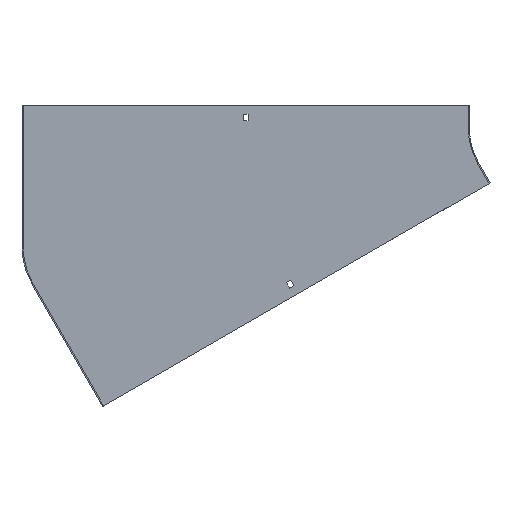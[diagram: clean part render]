
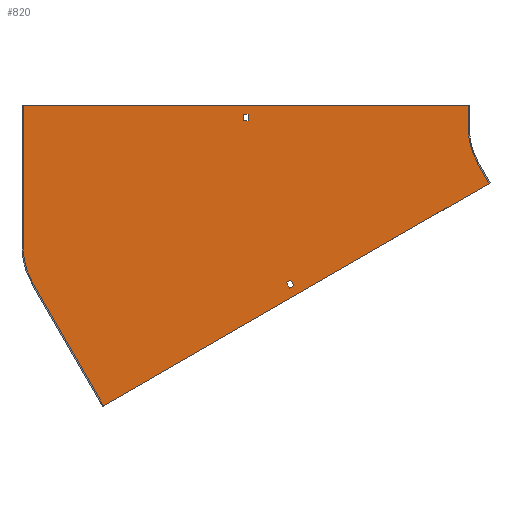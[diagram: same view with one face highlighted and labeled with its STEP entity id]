
A CAD part, front view. The second image highlights one B-rep face of the part: STEP entity #820.
In plain terms, the highlighted planar face has unit normal (0, -1, 0).
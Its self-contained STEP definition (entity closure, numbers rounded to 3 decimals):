
#2 = EDGE_CURVE ( 'NONE', #178, #503, #794, .T. ) ;
#10 = CARTESIAN_POINT ( 'NONE',  ( -690.603, -1.5, -211.841 ) ) ;
#19 = LINE ( 'NONE', #221, #253 ) ;
#20 = VECTOR ( 'NONE', #471, 1000. ) ;
#22 = EDGE_CURVE ( 'NONE', #346, #246, #584, .T. ) ;
#25 = DIRECTION ( 'NONE',  ( 0., 1., 0. ) ) ;
#38 = ORIENTED_EDGE ( 'NONE', *, *, #591, .F. ) ;
#40 = ORIENTED_EDGE ( 'NONE', *, *, #195, .F. ) ;
#49 = EDGE_LOOP ( 'NONE', ( #784, #271, #317, #510 ) ) ;
#59 = VECTOR ( 'NONE', #212, 1000. ) ;
#60 = VECTOR ( 'NONE', #467, 1000. ) ;
#64 = EDGE_CURVE ( 'NONE', #683, #525, #654, .T. ) ;
#67 = CARTESIAN_POINT ( 'NONE',  ( -704., -1.5, -161.841 ) ) ;
#71 = CARTESIAN_POINT ( 'NONE',  ( -100., -1.5, 30. ) ) ;
#75 = VERTEX_POINT ( 'NONE', #71 ) ;
#77 = ORIENTED_EDGE ( 'NONE', *, *, #852, .F. ) ;
#82 = CARTESIAN_POINT ( 'NONE',  ( -604., -1.5, -161.841 ) ) ;
#84 = VERTEX_POINT ( 'NONE', #95 ) ;
#95 = CARTESIAN_POINT ( 'NONE',  ( -71.603, -1.5, -75.981 ) ) ;
#118 = CARTESIAN_POINT ( 'NONE',  ( 0., -1.5, 0. ) ) ;
#131 = LINE ( 'NONE', #460, #486 ) ;
#138 = EDGE_LOOP ( 'NONE', ( #347, #377, #450, #443 ) ) ;
#150 = CARTESIAN_POINT ( 'NONE',  ( -70.304, -1.5, -75.231 ) ) ;
#165 = EDGE_CURVE ( 'NONE', #637, #651, #299, .T. ) ;
#178 = VERTEX_POINT ( 'NONE', #701 ) ;
#180 = DIRECTION ( 'NONE',  ( -0.5, 0., 0.866 ) ) ;
#189 = CARTESIAN_POINT ( 'NONE',  ( -405.25, -1.5, 0. ) ) ;
#192 = VECTOR ( 'NONE', #768, 1000. ) ;
#195 = EDGE_CURVE ( 'NONE', #75, #645, #313, .T. ) ;
#210 = VECTOR ( 'NONE', #846, 1000. ) ;
#212 = DIRECTION ( 'NONE',  ( -1., 0., 0. ) ) ;
#219 = ORIENTED_EDGE ( 'NONE', *, *, #506, .F. ) ;
#220 = VERTEX_POINT ( 'NONE', #321 ) ;
#221 = CARTESIAN_POINT ( 'NONE',  ( 9., -1.5, -15.588 ) ) ;
#223 = EDGE_CURVE ( 'NONE', #815, #346, #513, .T. ) ;
#227 = EDGE_CURVE ( 'NONE', #220, #329, #585, .T. ) ;
#235 = ORIENTED_EDGE ( 'NONE', *, *, #733, .F. ) ;
#238 = CARTESIAN_POINT ( 'NONE',  ( -398.75, -1.5, 9. ) ) ;
#246 = VERTEX_POINT ( 'NONE', #324 ) ;
#253 = VECTOR ( 'NONE', #306, 1000. ) ;
#271 = ORIENTED_EDGE ( 'NONE', *, *, #165, .T. ) ;
#277 = CARTESIAN_POINT ( 'NONE',  ( -704., -1.5, 30. ) ) ;
#278 = VERTEX_POINT ( 'NONE', #389 ) ;
#281 = CARTESIAN_POINT ( 'NONE',  ( 0., -1.5, 9. ) ) ;
#292 = VERTEX_POINT ( 'NONE', #730 ) ;
#295 = DIRECTION ( 'NONE',  ( 0., 0., -1. ) ) ;
#299 = LINE ( 'NONE', #367, #628 ) ;
#306 = DIRECTION ( 'NONE',  ( 0.866, 0., 0.5 ) ) ;
#313 = LINE ( 'NONE', #574, #210 ) ;
#317 = ORIENTED_EDGE ( 'NONE', *, *, #612, .T. ) ;
#320 = CARTESIAN_POINT ( 'NONE',  ( 4.5, -1.5, -7.794 ) ) ;
#321 = CARTESIAN_POINT ( 'NONE',  ( -704., -1.5, -161.841 ) ) ;
#324 = CARTESIAN_POINT ( 'NONE',  ( -346.457, -1.5, -210.419 ) ) ;
#329 = VERTEX_POINT ( 'NONE', #277 ) ;
#346 = VERTEX_POINT ( 'NONE', #409 ) ;
#347 = ORIENTED_EDGE ( 'NONE', *, *, #223, .F. ) ;
#348 = VECTOR ( 'NONE', #692, 1000. ) ;
#356 = CARTESIAN_POINT ( 'NONE',  ( 0., -1.5, 0. ) ) ;
#359 = CARTESIAN_POINT ( 'NONE',  ( -705.5, -1.5, 30. ) ) ;
#367 = CARTESIAN_POINT ( 'NONE',  ( -398.75, -1.5, 0. ) ) ;
#377 = ORIENTED_EDGE ( 'NONE', *, *, #416, .F. ) ;
#387 = ORIENTED_EDGE ( 'NONE', *, *, #567, .F. ) ;
#389 = CARTESIAN_POINT ( 'NONE',  ( -86.603, -1.5, -50. ) ) ;
#393 = DIRECTION ( 'NONE',  ( -0.5, 0., 0.866 ) ) ;
#409 = CARTESIAN_POINT ( 'NONE',  ( -340.828, -1.5, -207.169 ) ) ;
#416 = EDGE_CURVE ( 'NONE', #292, #815, #19, .T. ) ;
#425 = CARTESIAN_POINT ( 'NONE',  ( -398.75, -1.5, 18. ) ) ;
#437 = AXIS2_PLACEMENT_3D ( 'NONE', #82, #25, #764 ) ;
#443 = ORIENTED_EDGE ( 'NONE', *, *, #22, .F. ) ;
#450 = ORIENTED_EDGE ( 'NONE', *, *, #782, .F. ) ;
#460 = CARTESIAN_POINT ( 'NONE',  ( -350.957, -1.5, -202.625 ) ) ;
#465 = DIRECTION ( 'NONE',  ( 0., 0., -1. ) ) ;
#467 = DIRECTION ( 'NONE',  ( -0.866, 0., -0.5 ) ) ;
#470 = CARTESIAN_POINT ( 'NONE',  ( -345.328, -1.5, -199.375 ) ) ;
#471 = DIRECTION ( 'NONE',  ( 0.5, 0., -0.866 ) ) ;
#478 = VECTOR ( 'NONE', #711, 1000. ) ;
#486 = VECTOR ( 'NONE', #586, 1000. ) ;
#503 = VERTEX_POINT ( 'NONE', #825 ) ;
#506 = EDGE_CURVE ( 'NONE', #84, #683, #759, .T. ) ;
#510 = ORIENTED_EDGE ( 'NONE', *, *, #2, .T. ) ;
#513 = LINE ( 'NONE', #470, #736 ) ;
#516 = LINE ( 'NONE', #526, #20 ) ;
#517 = CARTESIAN_POINT ( 'NONE',  ( -594.682, -1.5, -377.981 ) ) ;
#525 = VERTEX_POINT ( 'NONE', #10 ) ;
#526 = CARTESIAN_POINT ( 'NONE',  ( -86.603, -1.5, -50. ) ) ;
#531 = VECTOR ( 'NONE', #804, 1000. ) ;
#539 = CIRCLE ( 'NONE', #437, 100. ) ;
#567 = EDGE_CURVE ( 'NONE', #645, #278, #687, .T. ) ;
#574 = CARTESIAN_POINT ( 'NONE',  ( -100., -1.5, 30. ) ) ;
#576 = LINE ( 'NONE', #359, #192 ) ;
#584 = LINE ( 'NONE', #320, #60 ) ;
#585 = LINE ( 'NONE', #67, #689 ) ;
#586 = DIRECTION ( 'NONE',  ( 0.5, 0., -0.866 ) ) ;
#591 = EDGE_CURVE ( 'NONE', #525, #220, #539, .T. ) ;
#593 = FACE_BOUND ( 'NONE', #138, .T. ) ;
#608 = LINE ( 'NONE', #281, #59 ) ;
#612 = EDGE_CURVE ( 'NONE', #651, #178, #608, .T. ) ;
#618 = AXIS2_PLACEMENT_3D ( 'NONE', #118, #658, #465 ) ;
#626 = CARTESIAN_POINT ( 'NONE',  ( -100., -1.5, 0. ) ) ;
#628 = VECTOR ( 'NONE', #649, 1000. ) ;
#637 = VERTEX_POINT ( 'NONE', #425 ) ;
#645 = VERTEX_POINT ( 'NONE', #626 ) ;
#647 = VECTOR ( 'NONE', #393, 1000. ) ;
#649 = DIRECTION ( 'NONE',  ( 0., 0., -1. ) ) ;
#651 = VERTEX_POINT ( 'NONE', #238 ) ;
#652 = ORIENTED_EDGE ( 'NONE', *, *, #64, .F. ) ;
#654 = LINE ( 'NONE', #517, #647 ) ;
#658 = DIRECTION ( 'NONE',  ( 0., -1., 0. ) ) ;
#662 = FACE_OUTER_BOUND ( 'NONE', #763, .T. ) ;
#683 = VERTEX_POINT ( 'NONE', #836 ) ;
#687 = CIRCLE ( 'NONE', #802, 100. ) ;
#689 = VECTOR ( 'NONE', #795, 1000. ) ;
#692 = DIRECTION ( 'NONE',  ( -0.866, 0., -0.5 ) ) ;
#701 = CARTESIAN_POINT ( 'NONE',  ( -405.25, -1.5, 9. ) ) ;
#711 = DIRECTION ( 'NONE',  ( 0., 0., 1. ) ) ;
#726 = FACE_BOUND ( 'NONE', #49, .T. ) ;
#730 = CARTESIAN_POINT ( 'NONE',  ( -341.957, -1.5, -218.213 ) ) ;
#733 = EDGE_CURVE ( 'NONE', #329, #75, #576, .T. ) ;
#736 = VECTOR ( 'NONE', #180, 1000. ) ;
#759 = LINE ( 'NONE', #150, #348 ) ;
#763 = EDGE_LOOP ( 'NONE', ( #235, #853, #38, #652, #219, #77, #387, #40 ) ) ;
#764 = DIRECTION ( 'NONE',  ( 0., 0., -1. ) ) ;
#768 = DIRECTION ( 'NONE',  ( 1., 0., 0. ) ) ;
#782 = EDGE_CURVE ( 'NONE', #246, #292, #131, .T. ) ;
#784 = ORIENTED_EDGE ( 'NONE', *, *, #858, .T. ) ;
#793 = CARTESIAN_POINT ( 'NONE',  ( 0., -1.5, 18. ) ) ;
#794 = LINE ( 'NONE', #189, #478 ) ;
#795 = DIRECTION ( 'NONE',  ( 0., 0., 1. ) ) ;
#797 = PLANE ( 'NONE',  #618 ) ;
#800 = LINE ( 'NONE', #793, #531 ) ;
#802 = AXIS2_PLACEMENT_3D ( 'NONE', #356, #826, #295 ) ;
#804 = DIRECTION ( 'NONE',  ( 1., 0., 0. ) ) ;
#807 = CARTESIAN_POINT ( 'NONE',  ( -336.328, -1.5, -214.963 ) ) ;
#815 = VERTEX_POINT ( 'NONE', #807 ) ;
#820 = ADVANCED_FACE ( 'NONE', ( #593, #662, #726 ), #797, .T. ) ;
#825 = CARTESIAN_POINT ( 'NONE',  ( -405.25, -1.5, 18. ) ) ;
#826 = DIRECTION ( 'NONE',  ( 0., -1., 0. ) ) ;
#836 = CARTESIAN_POINT ( 'NONE',  ( -594.682, -1.5, -377.981 ) ) ;
#846 = DIRECTION ( 'NONE',  ( 0., 0., -1. ) ) ;
#852 = EDGE_CURVE ( 'NONE', #278, #84, #516, .T. ) ;
#853 = ORIENTED_EDGE ( 'NONE', *, *, #227, .F. ) ;
#858 = EDGE_CURVE ( 'NONE', #503, #637, #800, .T. ) ;
